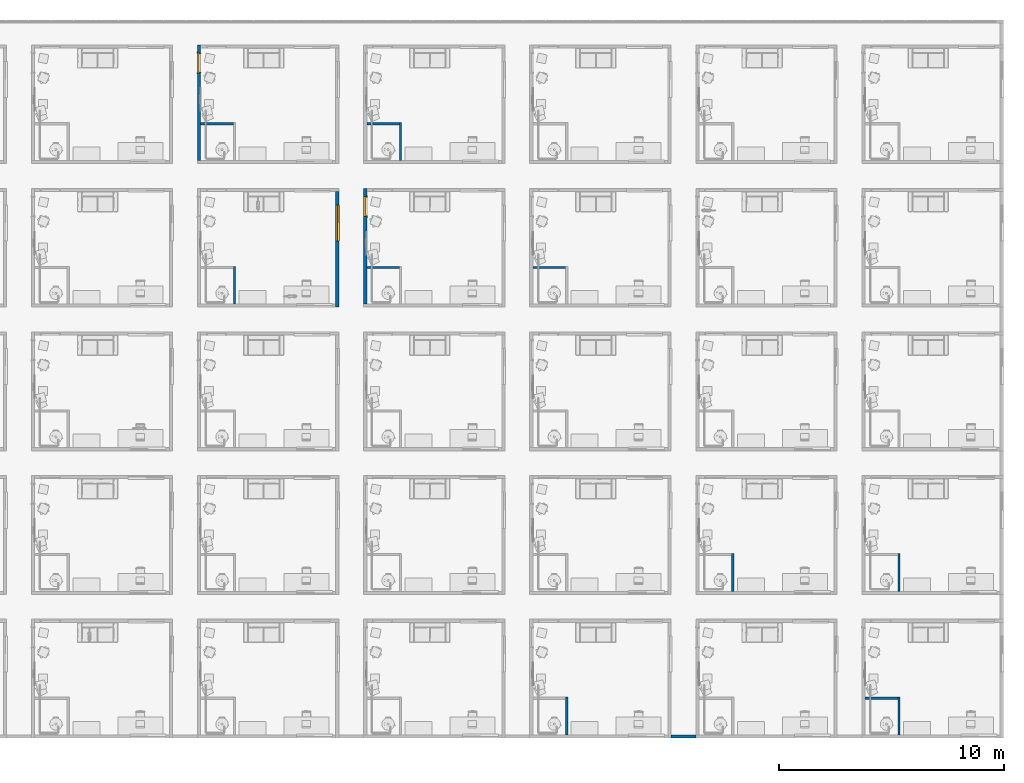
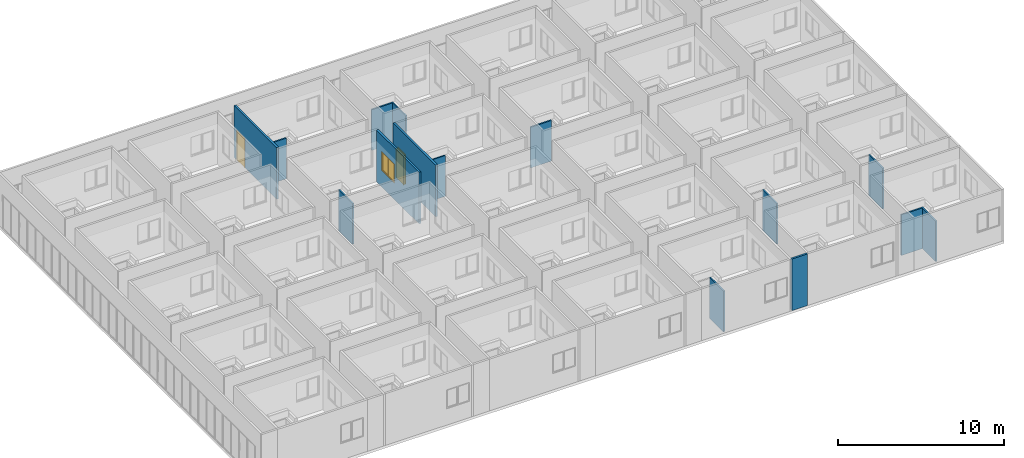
# One storey, part 9 of 71: 15 walls, 2 doors, 1 window, 3 openings.
"""IFC4 building model written with IfcOpenShell, lengths in centimetres."""

from ifc_helpers import new_model, entity, si_unit, converted_unit, derived_unit, direction, frame, origin, place, context, subcontext, project, spatial, indexed_curve, outline, extrude, polygons, source, transform, mapped, material, constituent, constituent_set, type_object, type_shapes, element, fill, save


model = new_model("IFC4")

# Units and contexts
model_context = context("Model", 3, precision=0.001, world=origin(), true_north=direction((6.123233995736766e-17, 1.0)))
body_context = subcontext(model_context, "Body", "Model", "MODEL_VIEW")
ifc_project = project(units=[si_unit("LENGTHUNIT", "METRE", prefix="CENTI"), si_unit("AREAUNIT", "SQUARE_METRE"), si_unit("VOLUMEUNIT", "CUBIC_METRE"), derived_unit("THERMALTRANSMITTANCEUNIT", [(si_unit("MASSUNIT", "GRAM", prefix="KILO"), 1), (si_unit("THERMODYNAMICTEMPERATUREUNIT", "KELVIN"), -1), (si_unit("TIMEUNIT", "SECOND"), -3)]), converted_unit("PLANEANGLEUNIT", "DEGREE", entity("IfcPlaneAngleMeasure", 0.017453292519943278), si_unit("PLANEANGLEUNIT", "RADIAN"), dimensions=[0, 0, 0, 0, 0, 0, 0]), derived_unit("MASSDENSITYUNIT", [(si_unit("MASSUNIT", "GRAM", prefix="KILO"), 1), (si_unit("LENGTHUNIT", "METRE"), -3)]), derived_unit("VAPORPERMEABILITYUNIT", [(si_unit("LENGTHUNIT", "METRE"), -1), (si_unit("TIMEUNIT", "SECOND"), 1)]), derived_unit("USERDEFINED", [(si_unit("MASSUNIT", "GRAM", prefix="KILO"), 1), (si_unit("TIMEUNIT", "SECOND"), -3), (si_unit("LENGTHUNIT", "METRE"), 3), (si_unit("ELECTRICCURRENTUNIT", "AMPERE"), -2)]), derived_unit("SPECIFICHEATCAPACITYUNIT", [(si_unit("THERMODYNAMICTEMPERATUREUNIT", "KELVIN"), -1), (si_unit("LENGTHUNIT", "METRE"), 2), (si_unit("TIMEUNIT", "SECOND"), -2)]), derived_unit("THERMALCONDUCTANCEUNIT", [(si_unit("MASSUNIT", "GRAM", prefix="KILO"), 1), (si_unit("THERMODYNAMICTEMPERATUREUNIT", "KELVIN"), -1), (si_unit("TIMEUNIT", "SECOND"), -3), (si_unit("LENGTHUNIT", "METRE"), 1)]), si_unit("PRESSUREUNIT", "PASCAL"), derived_unit("MODULUSOFELASTICITYUNIT", [(si_unit("MASSUNIT", "GRAM", prefix="KILO"), 1), (si_unit("LENGTHUNIT", "METRE"), -1), (si_unit("TIMEUNIT", "SECOND"), -2)]), derived_unit("THERMALEXPANSIONCOEFFICIENTUNIT", [(si_unit("THERMODYNAMICTEMPERATUREUNIT", "KELVIN"), -1)])], contexts=[model_context])

# Site, building, storey
site_placement = place(None, origin())
site = spatial("IfcSite", under=ifc_project, at=site_placement, Name="Default", CompositionType="ELEMENT")
building_placement = place(site_placement, origin())
building = spatial("IfcBuilding", under=site, at=building_placement, Name="IDS Escape Game Building", CompositionType="ELEMENT")
storey_placement = place(building_placement, frame((0.0, 0.0, 1200.0)))
storey = spatial("IfcBuildingStorey", under=building, at=storey_placement, Name="03_Third Floor", CompositionType="ELEMENT", Elevation=1200.0)

# Wall, opening, window
ifc_material_1 = material(Name="ARC_FME.g2_Fg2 Masonry_00_gen_BERSnl", Category="g - klei")
wall_type_1 = type_object("IfcWallType", Name="Basic Wall:ARC_22.10_WA_LB_SB14_gen_BERSnl", PredefinedType="STANDARD")
wall_1_placement = place(storey_placement, frame((2090.0, 1913.0, 0.0), z_axis=(0.0, 0.0, 1.0), x_axis=(0.0, 1.0, 0.0)))
wall_1 = element("IfcWall", 1, at=wall_1_placement, inside=storey, type_object=wall_type_1, material=ifc_material_1, Name="Basic Wall:ARC_22.10_WA_LB_SB14_gen_BERSnl", ObjectType="Basic Wall:ARC_22.10_WA_LB_SB14_gen_BERSnl", PredefinedType="NOTDEFINED", context=body_context, shape_type="Tessellation", body=[
    polygons([(0.0, -6.999999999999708, 0.0), (513.9999999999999, -6.999999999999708, 0.0), (513.9999999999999, -6.999999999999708, 380.0), (0.0, -6.999999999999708, 380.0), (453.99999999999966, -6.999999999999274, 260.00000000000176), (454.00000000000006, -6.999999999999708, 120.00000000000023), (294.00000000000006, -6.999999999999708, 120.00000000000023), (294.00000000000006, -6.999999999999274, 260.00000000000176), (454.00000000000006, 7.000000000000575, 120.00000000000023), (454.00000000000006, 7.000000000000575, 260.0), (294.00000000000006, 7.000000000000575, 260.0), (294.00000000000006, 7.000000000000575, 120.00000000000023), (0.0, 7.000000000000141, 0.0), (0.0, 7.000000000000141, 380.0), (14.000000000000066, 7.000000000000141, 380.0), (513.9999999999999, 7.000000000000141, 380.0), (513.9999999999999, 7.000000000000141, 0.0), (14.000000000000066, 7.000000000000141, 0.0)], [[[1, 2, 3, 4], [5, 6, 7, 8]], [[13, 14, 15, 16, 17, 18], [9, 10, 11, 12]], [[2, 1, 13, 18, 17]], [[4, 3, 16, 15, 14]], [[10, 9, 6, 5]], [[7, 12, 11, 8]], [[10, 5, 8, 11]], [[12, 7, 6, 9]], [[1, 4, 14, 13]], [[3, 2, 17, 16]]], closed=True),
])
opening_1_placement = place(wall_1_placement, frame((-1913.0, 2090.0, 120.0), z_axis=(0.0, 0.0, 1.0), x_axis=(0.0, -1.0, 0.0)))
opening_1 = element("IfcOpeningElement", 2, at=opening_1_placement, cuts=wall_1, Name="Basic Wall:ARC_22.10_WA_LB_SB14_gen_BERSnl", PredefinedType="OPENING", context=body_context, shape_type="Tessellation", body=[
    polygons([(2082.9999999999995, 2367.0000000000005, 2.2737367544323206e-13), (2082.9999999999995, 2367.0000000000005, -1.0), (2077.999999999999, 2367.0000000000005, -1.0), (2077.999999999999, 2367.0000000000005, 2.2737367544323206e-13), (2082.9999999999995, 2207.0000000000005, 2.2737367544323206e-13), (2077.999999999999, 2207.0000000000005, 2.2737367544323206e-13), (2077.999999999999, 2207.0000000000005, -1.0), (2082.9999999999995, 2207.0000000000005, -1.0), (2082.999999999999, 2362.0000000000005, 0.0), (2082.999999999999, 2212.0000000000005, 0.0), (2077.9999999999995, 2212.0000000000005, 2.2737367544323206e-13), (2077.9999999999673, 2212.0, 135.0), (2077.9999999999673, 2362.0000000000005, 135.0), (2077.9999999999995, 2362.0000000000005, 2.2737367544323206e-13), (2102.0368251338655, 2367.0000000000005, 2.2737367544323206e-13), (2082.999999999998, 2367.0000000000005, 2.2737367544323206e-13), (2082.9999999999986, 2367.0000000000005, 140.00000000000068), (2102.036825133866, 2367.0000000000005, 140.00000000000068), (2102.0368251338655, 2207.0000000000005, 140.0), (2082.999999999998, 2207.0000000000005, 140.0), (2082.9999999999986, 2207.0000000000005, 2.2737367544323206e-13), (2102.0368251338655, 2207.0000000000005, 2.2737367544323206e-13), (2082.9999999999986, 2362.0000000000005, 135.0), (2082.999999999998, 2212.0, 135.0)], [[[1, 2, 3, 4]], [[5, 6, 7, 8]], [[1, 9, 10, 5, 8, 2]], [[2, 8, 7, 3]], [[3, 7, 6, 11, 12, 13, 14, 4]], [[4, 14, 9, 1]], [[15, 16, 17, 18]], [[19, 20, 21, 22]], [[18, 17, 20, 19]], [[18, 19, 22, 15]], [[17, 16, 9, 23, 24, 10, 21, 20]], [[22, 21, 10, 9, 16, 15]], [[11, 10, 24, 12]], [[13, 23, 9, 14]], [[12, 24, 23, 13]], [[5, 10, 11, 6]]], closed=True),
])
ifc_material_2 = material(Name="<Unnamed>")
ifc_constituent_1 = constituent(ifc_material_2, Name="<Unnamed>", fraction=0.0)
ifc_material_3 = material(Name="ARC_FME.o1_glass_00_gen_BERSnl", Category="o - glas")
ifc_constituent_2 = constituent(ifc_material_3, Name="ARC_FME.o1_glass_00_gen_BERSnl", Category="o - glas", fraction=1.0)
ifc_constituent_set_1 = constituent_set(constituents=[ifc_constituent_1, ifc_constituent_2])
ifc_constituent_3 = constituent(ifc_material_2, Name="BE Tablet", fraction=0.0)
ifc_constituent_4 = constituent(ifc_material_2, Name="Frame/Mullion", fraction=0.0)
ifc_constituent_5 = constituent(ifc_material_3, Name="Glass", Category="o - glas", fraction=1.0)
ifc_constituent_set_2 = constituent_set(constituents=[ifc_constituent_3, ifc_constituent_4, ifc_constituent_5])
window_type = type_object("IfcWindowType", Name="ARC_31_WI_WB_Dubbel Raam-Recht-Vast en Draaiend_gen_BERSnl:Links-Draaiend / Rechts-Draaiend", PartitioningType="NOTDEFINED", PredefinedType="WINDOW", material=ifc_constituent_set_2)
shared_shape_1 = source(origin(), body_context, "Body", "Tessellation", [
    extrude(outline(indexed_curve([(-80.00000000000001, -4.999999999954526), (80.00000000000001, -4.999999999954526), (80.00000000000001, 4.999999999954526), (-80.00000000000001, 4.999999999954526), (-80.00000000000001, -4.999999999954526)], self_intersect=False)), frame((80.0, 7.036825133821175, 1.0), z_axis=(0.0, 0.0, 1.0), x_axis=(-1.0, 0.0, 0.0)), (0.0, 0.0, 1.0), 2.000000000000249),
    extrude(outline(indexed_curve([(-2.9999999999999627, -3.000000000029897), (-7.656209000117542e-14, -3.000000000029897), (-7.064016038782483e-14, 5.979964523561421e-11), (3.0000000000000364, 5.978991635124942e-11), (3.0000000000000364, 2.9999999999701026), (-2.9999999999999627, 2.9999999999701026), (-2.9999999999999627, -3.000000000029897)], self_intersect=False)), frame((80.0, 15.03682513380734, 7.0)), (0.0, 0.0, 1.0), 128.00000000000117),
    extrude(outline(indexed_curve([(-35.499999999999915, -1.2000000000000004), (35.499999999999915, -1.2000000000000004), (35.49999999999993, 1.2), (-35.499999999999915, 1.2), (-35.499999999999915, -1.2000000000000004)], self_intersect=False)), frame((41.50000000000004, 15.036825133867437, 7.0), z_axis=(0.0, 0.0, 1.0), x_axis=(-1.0, 0.0, 0.0)), (0.0, 0.0, 1.0), 128.000000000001),
    extrude(outline(indexed_curve([(-67.00000000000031, -38.500000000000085), (67.00000000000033, -38.5000000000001), (67.00000000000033, 38.50000000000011), (-67.00000000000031, 38.50000000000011), (-67.00000000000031, -38.500000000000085)], self_intersect=False), holes=[indexed_curve([(61.00000000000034, -32.50000000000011), (-61.00000000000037, -32.500000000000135), (-61.00000000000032, 32.50000000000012), (61.00000000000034, 32.50000000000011), (61.00000000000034, -32.50000000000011)], self_intersect=False)]), frame((118.5, 9.03682513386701, 71.0), z_axis=(0.0, 1.0, 0.0), x_axis=(0.0, 0.0, -1.0)), (0.0, 0.0, 1.0), 6.0),
    extrude(outline(indexed_curve([(-32.500000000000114, -1.2000000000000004), (32.500000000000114, -1.2000000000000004), (32.500000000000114, 1.2000000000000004), (-32.500000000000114, 1.2000000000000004), (-32.500000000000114, -1.2000000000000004)], self_intersect=False)), frame((118.5, 12.036825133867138, 10.0), z_axis=(0.0, 0.0, 1.0), x_axis=(-1.0, 0.0, 0.0)), (0.0, 0.0, 1.0), 122.00000000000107),
    polygons([(160.00000000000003, 18.03682513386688, 141.00000000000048), (160.00000000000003, 18.03682513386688, 1.0000000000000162), (4.0607517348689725e-14, 18.036825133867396, 1.0000000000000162), (4.0607517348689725e-14, 18.036825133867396, 141.00000000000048), (6.000000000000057, 18.03682513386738, 135.00000000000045), (6.000000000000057, 18.03682513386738, 7.000000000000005), (76.99999999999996, 18.03682513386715, 7.000000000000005), (154.00000000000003, 18.0368251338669, 7.000000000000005), (154.00000000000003, 18.0368251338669, 135.00000000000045), (76.99999999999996, 18.03682513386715, 135.00000000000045), (160.0, 12.03682513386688, 141.00000000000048), (160.0, 12.03682513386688, 1.0000000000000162), (2.7071678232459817e-14, 12.036825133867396, 1.0000000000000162), (2.7071678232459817e-14, 12.036825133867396, 141.00000000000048), (6.000000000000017, 12.036825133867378, 135.00000000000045), (6.000000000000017, 12.036825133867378, 7.000000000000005), (76.99999999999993, 12.036825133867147, 7.000000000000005), (79.99999999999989, 12.036825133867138, 7.000000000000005), (79.9999999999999, 15.036825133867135, 7.000000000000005), (154.00000000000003, 15.0368251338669, 7.000000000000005), (154.00000000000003, 15.036825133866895, 135.00000000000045), (76.99999999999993, 12.036825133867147, 135.00000000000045), (79.99999999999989, 12.036825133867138, 135.00000000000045), (79.99999999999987, 12.036825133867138, 138.00000000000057), (157.00000000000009, 12.036825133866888, 138.00000000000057), (157.00000000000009, 12.036825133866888, 3.9999999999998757), (79.99999999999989, 12.036825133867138, 3.9999999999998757), (157.0000000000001, 15.036825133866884, 3.9999999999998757), (157.0000000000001, 15.036825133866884, 138.00000000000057), (79.99999999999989, 15.036825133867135, 3.9999999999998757), (79.99999999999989, 15.036825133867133, 138.00000000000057), (79.99999999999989, 15.036825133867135, 135.00000000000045)], [[[1, 2, 3, 4], [5, 6, 7, 8, 9, 10]], [[2, 1, 11, 12]], [[3, 2, 12, 13]], [[4, 3, 13, 14]], [[6, 5, 15, 16]], [[6, 16, 17, 18, 19, 20, 8, 7]], [[9, 8, 20, 21]], [[11, 14, 13, 12], [16, 15, 22, 23, 24, 25, 26, 27, 18, 17]], [[28, 26, 25, 29]], [[30, 27, 26, 28]], [[31, 24, 23, 32]], [[30, 28, 29, 31, 32, 21, 20, 19]], [[1, 4, 14, 11]], [[15, 5, 10, 9, 21, 32, 23, 22]], [[24, 31, 29, 25]], [[27, 30, 19, 18]]], closed=True),
])
type_shapes(window_type, [shared_shape_1])
window_placement = place(opening_1_placement, frame((2102.0368251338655, 2207.0, -1.0), z_axis=(0.0, 0.0, 1.0), x_axis=(0.0, 1.0, 0.0)))
window = element("IfcWindow", 3, at=window_placement, inside=storey, type_object=window_type, material=ifc_constituent_set_1, Name="ARC_31_WI_WB_Dubbel Raam-Recht-Vast en Draaiend_gen_BERSnl:Links-Draaiend / Rechts-Draaiend", ObjectType="ARC_31_WI_WB_Dubbel Raam-Recht-Vast en Draaiend_gen_BERSnl:Links-Draaiend / Rechts-Draaiend", OverallHeight=140.00000000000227, OverallWidth=160.0000000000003, PartitioningType="NOTDEFINED", PredefinedType="WINDOW", context=body_context, shape_type="MappedRepresentation", body=[
    mapped(shared_shape_1, transform((0.0, 0.0, 0.0), scale=1.0)),
])
fill(opening_1, window)

# Wall, opening, door
wall_2_placement = place(storey_placement, frame((2214.0, 2441.0, 0.0), z_axis=(0.0, 0.0, 1.0), x_axis=(0.0, -1.0, 0.0)))
wall_2 = element("IfcWall", 4, at=wall_2_placement, inside=storey, type_object=wall_type_1, material=ifc_material_1, Name="Basic Wall:ARC_22.10_WA_LB_SB14_gen_BERSnl", ObjectType="Basic Wall:ARC_22.10_WA_LB_SB14_gen_BERSnl", PredefinedType="NOTDEFINED", context=body_context, shape_type="Tessellation", body=[
    polygons([(513.9999999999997, -6.999999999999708, 380.0), (0.0, -6.999999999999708, 380.0), (0.0, -6.999999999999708, 0.0), (35.999999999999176, -6.999999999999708, 0.0), (35.999999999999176, -6.999999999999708, 215.00000000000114), (125.99999999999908, -6.999999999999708, 215.00000000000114), (125.99999999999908, -6.999999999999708, 0.0), (513.9999999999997, -6.999999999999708, 0.0), (0.0, 7.000000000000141, 380.0), (13.999999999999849, 7.000000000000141, 380.0), (513.9999999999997, 7.000000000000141, 380.0), (513.9999999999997, 7.000000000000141, 0.0), (355.9999999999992, 7.000000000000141, 0.0), (345.9999999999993, 7.000000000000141, 0.0), (125.99999999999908, 7.000000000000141, 0.0), (125.99999999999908, 7.000000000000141, 215.00000000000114), (35.999999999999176, 7.000000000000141, 215.00000000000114), (35.999999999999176, 7.000000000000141, 0.0), (13.999999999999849, 7.000000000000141, 0.0), (0.0, 7.000000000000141, 0.0)], [[[1, 2, 3, 4, 5, 6, 7, 8]], [[9, 10, 11, 12, 13, 14, 15, 16, 17, 18, 19, 20]], [[3, 20, 19, 18, 4]], [[2, 1, 11, 10, 9]], [[17, 5, 4, 18]], [[6, 16, 15, 7]], [[5, 17, 16, 6]], [[3, 2, 9, 20]], [[1, 8, 12, 11]], [[12, 8, 7, 15, 14, 13]]], closed=True),
])
opening_2_placement = place(wall_2_placement, frame((2441.0, -2214.0, 0.0), z_axis=(0.0, 0.0, 1.0), x_axis=(0.0, 1.0, 0.0)))
opening_2 = element("IfcOpeningElement", 5, at=opening_2_placement, cuts=wall_2, Name="Basic Wall:ARC_22.10_WA_LB_SB14_gen_BERSnl", PredefinedType="OPENING", context=body_context, shape_type="SweptSolid", body=[
    extrude(outline(indexed_curve([(-137.49999999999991, -45.00000000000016), (137.49999999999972, -45.00000000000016), (137.49999999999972, 44.99999999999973), (-137.49999999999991, 44.99999999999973), (-137.49999999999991, -45.00000000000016)], self_intersect=False)), frame((2124.0, 2360.0, 77.50000000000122), z_axis=(1.0, 0.0, 0.0), x_axis=(0.0, 0.0, 1.0)), (0.0, 0.0, 1.0), 166.00000000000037),
])
ifc_material_4 = material(Name="ARC_FME.i3_wood_00_gen_BERSnl", Category="i - hout")
door_type = type_object("IfcDoorType", Name="ARC_32.30_DO_WB_binnendeur enkel draaiend met void_gen_BERSnl:Fire Exit_830x2115_EI60", OperationType="SINGLE_SWING_RIGHT", PredefinedType="DOOR", material=ifc_material_4)
shared_shape_2 = source(origin(), body_context, "Body", "Tessellation", [
    extrude(outline(indexed_curve([(-41.49999999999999, -3.749999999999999), (41.49999999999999, -3.749999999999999), (41.49999999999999, 3.75), (-41.49999999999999, 3.75), (-41.49999999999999, -3.749999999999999)], self_intersect=False)), frame((45.0, 79.24999999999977, 60.0), z_axis=(0.0, 0.0, 1.0), x_axis=(-1.0, 0.0, 0.0)), (0.0, 0.0, 1.0), 211.50000000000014),
    polygons([(88.99999999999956, 82.99999999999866, 59.999999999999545), (88.9999999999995, 67.99999999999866, 59.999999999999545), (94.99999999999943, 67.99999999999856, 59.999999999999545), (94.99999999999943, 66.49999999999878, 59.999999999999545), (84.99999999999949, 66.4999999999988, 59.999999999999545), (84.99999999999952, 75.49999999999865, 59.999999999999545), (86.49999999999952, 75.49999999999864, 59.999999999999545), (86.49999999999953, 84.49999999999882, 59.999999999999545), (94.99999999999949, 84.49999999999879, 59.999999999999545), (94.99999999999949, 82.99999999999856, 59.999999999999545), (88.99999999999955, 82.99999999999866, 274.0000000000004), (88.9999999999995, 67.99999999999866, 274.0000000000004), (0.9999999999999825, 67.99999999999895, 274.0000000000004), (0.9999999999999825, 67.99999999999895, 59.99999999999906), (-4.999999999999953, 67.99999999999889, 59.99999999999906), (-4.999999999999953, 67.99999999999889, 280.00000000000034), (94.99999999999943, 67.99999999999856, 280.00000000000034), (94.99999999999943, 66.49999999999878, 280.00000000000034), (-4.999999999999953, 66.4999999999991, 280.00000000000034), (-4.999999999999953, 66.4999999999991, 59.99999999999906), (4.999999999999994, 66.49999999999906, 59.99999999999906), (4.999999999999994, 66.49999999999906, 270.00000000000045), (84.99999999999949, 66.4999999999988, 270.00000000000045), (84.99999999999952, 75.49999999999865, 270.00000000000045), (5.000000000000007, 75.4999999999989, 270.00000000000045), (5.0, 75.4999999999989, 59.99999999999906), (3.5000000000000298, 75.4999999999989, 59.99999999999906), (3.500000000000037, 75.4999999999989, 271.50000000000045), (86.4999999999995, 75.49999999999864, 271.50000000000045), (86.49999999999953, 84.49999999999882, 271.50000000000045), (3.5000000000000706, 84.49999999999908, 271.50000000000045), (3.500000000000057, 84.49999999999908, 59.99999999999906), (-4.999999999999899, 84.4999999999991, 59.99999999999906), (-4.999999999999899, 84.4999999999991, 280.00000000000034), (94.99999999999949, 84.49999999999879, 280.00000000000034), (94.99999999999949, 82.99999999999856, 280.00000000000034), (-4.999999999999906, 82.99999999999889, 280.00000000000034), (-4.999999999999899, 82.99999999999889, 59.99999999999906), (1.0000000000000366, 82.99999999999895, 59.99999999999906), (1.0000000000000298, 82.99999999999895, 274.0000000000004)], [[[1, 2, 3, 4, 5, 6, 7, 8, 9, 10]], [[2, 1, 11, 12]], [[3, 2, 12, 13, 14, 15, 16, 17]], [[4, 3, 17, 18]], [[5, 4, 18, 19, 20, 21, 22, 23]], [[6, 5, 23, 24]], [[7, 6, 24, 25, 26, 27, 28, 29]], [[8, 7, 29, 30]], [[9, 8, 30, 31, 32, 33, 34, 35]], [[10, 9, 35, 36]], [[1, 10, 36, 37, 38, 39, 40, 11]], [[37, 34, 33, 38]], [[39, 38, 33, 32, 27, 26, 21, 20, 15, 14]], [[13, 40, 39, 14]], [[31, 28, 27, 32]], [[25, 22, 21, 26]], [[19, 16, 15, 20]], [[36, 35, 34, 37]], [[30, 29, 28, 31]], [[24, 23, 22, 25]], [[18, 17, 16, 19]], [[12, 11, 40, 13]]], closed=True),
])
type_shapes(door_type, [shared_shape_2])
door_1_placement = place(opening_2_placement, frame((2290.0, 2315.0, -60.0), z_axis=(0.0, 0.0, 1.0), x_axis=(0.0, 1.0, 0.0)))
door_1 = element("IfcDoor", 6, at=door_1_placement, inside=storey, type_object=door_type, material=ifc_material_4, Name="ARC_32.30_DO_WB_binnendeur enkel draaiend met void_gen_BERSnl:Fire Exit_830x2115_EI60", ObjectType="ARC_32.30_DO_WB_binnendeur enkel draaiend met void_gen_BERSnl:Fire Exit_830x2115_EI60", OverallHeight=274.99999999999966, OverallWidth=89.9999999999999, PredefinedType="DOOR", context=body_context, shape_type="MappedRepresentation", body=[
    mapped(shared_shape_2, transform((0.0, 0.0, 0.0), scale=1.0)),
])
fill(opening_2, door_1)

wall_3_placement = place(storey_placement, frame((1476.0, 3079.0, 0.0), z_axis=(0.0, 0.0, 1.0), x_axis=(0.0, -1.0, 0.0)))
wall_3 = element("IfcWall", 7, at=wall_3_placement, inside=storey, type_object=wall_type_1, material=ifc_material_1, Name="Basic Wall:ARC_22.10_WA_LB_SB14_gen_BERSnl", ObjectType="Basic Wall:ARC_22.10_WA_LB_SB14_gen_BERSnl", PredefinedType="NOTDEFINED", context=body_context, shape_type="Tessellation", body=[
    polygons([(513.9999999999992, -7.000000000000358, 380.0), (0.0, -7.000000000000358, 380.0), (0.0, -7.000000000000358, 0.0), (35.999999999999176, -7.000000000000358, 0.0), (35.999999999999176, -7.000000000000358, 215.00000000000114), (125.99999999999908, -7.000000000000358, 215.00000000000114), (125.99999999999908, -7.000000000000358, 0.0), (513.9999999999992, -7.000000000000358, 0.0), (0.0, 6.9999999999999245, 380.0), (13.999999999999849, 6.9999999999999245, 380.0), (513.9999999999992, 6.9999999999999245, 380.0), (513.9999999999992, 6.9999999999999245, 0.0), (355.9999999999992, 6.9999999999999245, 0.0), (345.9999999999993, 6.9999999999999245, 0.0), (125.99999999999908, 6.9999999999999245, 0.0), (125.99999999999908, 6.9999999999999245, 215.00000000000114), (35.999999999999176, 6.9999999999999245, 215.00000000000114), (35.999999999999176, 6.9999999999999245, 0.0), (13.999999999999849, 6.9999999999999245, 0.0), (0.0, 6.9999999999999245, 0.0)], [[[1, 2, 3, 4, 5, 6, 7, 8]], [[9, 10, 11, 12, 13, 14, 15, 16, 17, 18, 19, 20]], [[3, 20, 19, 18, 4]], [[2, 1, 11, 10, 9]], [[17, 5, 4, 18]], [[6, 16, 15, 7]], [[5, 17, 16, 6]], [[3, 2, 9, 20]], [[1, 8, 12, 11]], [[12, 8, 7, 15, 14, 13]]], closed=True),
])
opening_3_placement = place(wall_3_placement, frame((3079.0, -1476.0, 0.0), z_axis=(0.0, 0.0, 1.0), x_axis=(0.0, 1.0, 0.0)))
opening_3 = element("IfcOpeningElement", 8, at=opening_3_placement, cuts=wall_3, Name="Basic Wall:ARC_22.10_WA_LB_SB14_gen_BERSnl", PredefinedType="OPENING", context=body_context, shape_type="SweptSolid", body=[
    extrude(outline(indexed_curve([(-137.49999999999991, -44.99999999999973), (137.49999999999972, -44.99999999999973), (137.49999999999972, 45.00000000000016), (-137.49999999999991, 45.00000000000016), (-137.49999999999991, -44.99999999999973)], self_intersect=False)), frame((1386.0, 2998.0, 77.50000000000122), z_axis=(1.0, 0.0, 0.0), x_axis=(0.0, 0.0, 1.0)), (0.0, 0.0, 1.0), 165.99999999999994),
])
door_2_placement = place(opening_3_placement, frame((1552.0, 2953.0, -60.0), z_axis=(0.0, 0.0, 1.0), x_axis=(0.0, 1.0, 0.0)))
door_2 = element("IfcDoor", 9, at=door_2_placement, inside=storey, type_object=door_type, material=ifc_material_4, Name="ARC_32.30_DO_WB_binnendeur enkel draaiend met void_gen_BERSnl:Fire Exit_830x2115_EI60", ObjectType="ARC_32.30_DO_WB_binnendeur enkel draaiend met void_gen_BERSnl:Fire Exit_830x2115_EI60", OverallHeight=274.99999999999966, OverallWidth=89.9999999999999, PredefinedType="DOOR", context=body_context, shape_type="MappedRepresentation", body=[
    mapped(shared_shape_2, transform((0.0, 0.0, 0.0), scale=1.0)),
])
fill(opening_3, door_2)

# Walls
wall_4_placement = place(storey_placement, frame((3683.0, 6.0, 0.0), z_axis=(0.0, 0.0, 1.0), x_axis=(-1.0, 0.0, 0.0)))
element("IfcWall", 10, at=wall_4_placement, inside=storey, type_object=wall_type_1, material=ifc_material_1, Name="Basic Wall:ARC_22.10_WA_LB_SB14_gen_BERSnl", ObjectType="Basic Wall:ARC_22.10_WA_LB_SB14_gen_BERSnl", PredefinedType="NOTDEFINED", context=body_context, shape_type="SweptSolid", body=[
    extrude(outline(indexed_curve([(110.00000000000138, 7.000000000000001), (-2.2611003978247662e-14, 7.0), (2.2611003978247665e-14, -7.000000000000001), (110.00000000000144, -7.000000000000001), (110.00000000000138, 7.000000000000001)], self_intersect=False)), origin(), (0.0, 0.0, 1.0), 380.0000000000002),
])
ifc_material_5 = material(Name="ARC_FME.r2_Plaster_white_gen_BERSnl", Category="r - klei, gips, magnesium en kunststof bindmiddelen")
wall_type_2 = type_object("IfcWallType", Name="Basic Wall:ARC_22.10_WA_LB_GPS10_gen_BERSnl", PredefinedType="STANDARD")
wall_5_placement = place(storey_placement, frame((3109.0, 13.0, 0.0), z_axis=(0.0, 0.0, 1.0), x_axis=(0.0, 1.0, 0.0)))
element("IfcWall", 11, at=wall_5_placement, inside=storey, type_object=wall_type_2, material=ifc_material_5, Name="Basic Wall:ARC_22.10_WA_LB_GPS10_gen_BERSnl", ObjectType="Basic Wall:ARC_22.10_WA_LB_GPS10_gen_BERSnl", PredefinedType="NOTDEFINED", context=body_context, shape_type="SweptSolid", body=[
    extrude(outline(indexed_curve([(168.00000000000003, 4.9999999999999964), (-1.1881077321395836e-15, 5.0000000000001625), (-5.038721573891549e-16, -5.0000000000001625), (168.00000000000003, -5.000000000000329), (168.00000000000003, 4.9999999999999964)], self_intersect=False)), origin(), (0.0, 0.0, 1.0), 300.0000000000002),
])
wall_6_placement = place(storey_placement, frame((4585.0, 13.0, 0.0), z_axis=(0.0, 0.0, 1.0), x_axis=(0.0, 1.0, 0.0)))
element("IfcWall", 12, at=wall_6_placement, inside=storey, type_object=wall_type_2, material=ifc_material_5, Name="Basic Wall:ARC_22.10_WA_LB_GPS10_gen_BERSnl", ObjectType="Basic Wall:ARC_22.10_WA_LB_GPS10_gen_BERSnl", PredefinedType="NOTDEFINED", context=body_context, shape_type="SweptSolid", body=[
    extrude(outline(indexed_curve([(168.00000000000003, 4.9999999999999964), (-1.1881077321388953e-15, 4.999999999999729), (-5.038721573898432e-16, -4.999999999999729), (168.00000000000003, -4.999999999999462), (168.00000000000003, 4.9999999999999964)], self_intersect=False)), origin(), (0.0, 0.0, 1.0), 300.0000000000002),
])
wall_7_placement = place(storey_placement, frame((4580.0, 176.0, 0.0), z_axis=(0.0, 0.0, 1.0), x_axis=(-1.0, 0.0, 0.0)))
element("IfcWall", 13, at=wall_7_placement, inside=storey, type_object=wall_type_2, material=ifc_material_5, Name="Basic Wall:ARC_22.10_WA_LB_GPS10_gen_BERSnl", ObjectType="Basic Wall:ARC_22.10_WA_LB_GPS10_gen_BERSnl", PredefinedType="NOTDEFINED", context=body_context, shape_type="SweptSolid", body=[
    extrude(outline(indexed_curve([(144.99999999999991, 5.000000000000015), (-1.6380951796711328e-14, 5.0), (1.6380951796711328e-14, -5.0), (144.99999999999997, -4.999999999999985), (144.99999999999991, 5.000000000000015)], self_intersect=False)), origin(), (0.0, 0.0, 1.0), 300.0000000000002),
])
wall_8_placement = place(storey_placement, frame((3847.0, 651.0, 0.0), z_axis=(0.0, 0.0, 1.0), x_axis=(0.0, 1.0, 0.0)))
element("IfcWall", 14, at=wall_8_placement, inside=storey, type_object=wall_type_2, material=ifc_material_5, Name="Basic Wall:ARC_22.10_WA_LB_GPS10_gen_BERSnl", ObjectType="Basic Wall:ARC_22.10_WA_LB_GPS10_gen_BERSnl", PredefinedType="NOTDEFINED", context=body_context, shape_type="SweptSolid", body=[
    extrude(outline(indexed_curve([(168.00000000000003, 4.9999999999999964), (-7.956027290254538e-15, 5.0000000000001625), (7.956027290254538e-15, -5.0000000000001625), (168.00000000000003, -5.000000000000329), (168.00000000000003, 4.9999999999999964)], self_intersect=False)), origin(), (0.0, 0.0, 1.0), 300.0000000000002),
])
wall_9_placement = place(storey_placement, frame((4585.0, 651.0, 0.0), z_axis=(0.0, 0.0, 1.0), x_axis=(0.0, 1.0, 0.0)))
element("IfcWall", 15, at=wall_9_placement, inside=storey, type_object=wall_type_2, material=ifc_material_5, Name="Basic Wall:ARC_22.10_WA_LB_GPS10_gen_BERSnl", ObjectType="Basic Wall:ARC_22.10_WA_LB_GPS10_gen_BERSnl", PredefinedType="NOTDEFINED", context=body_context, shape_type="SweptSolid", body=[
    extrude(outline(indexed_curve([(168.00000000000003, 4.9999999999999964), (-7.95602729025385e-15, 4.999999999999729), (7.95602729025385e-15, -4.999999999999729), (168.00000000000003, -4.999999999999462), (168.00000000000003, 4.9999999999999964)], self_intersect=False)), origin(), (0.0, 0.0, 1.0), 300.0000000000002),
])
wall_10_placement = place(storey_placement, frame((1633.0, 1927.0, 0.0), z_axis=(0.0, 0.0, 1.0), x_axis=(0.0, 1.0, 0.0)))
element("IfcWall", 16, at=wall_10_placement, inside=storey, type_object=wall_type_2, material=ifc_material_5, Name="Basic Wall:ARC_22.10_WA_LB_GPS10_gen_BERSnl", ObjectType="Basic Wall:ARC_22.10_WA_LB_GPS10_gen_BERSnl", PredefinedType="NOTDEFINED", context=body_context, shape_type="SweptSolid", body=[
    extrude(outline(indexed_curve([(167.99999999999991, 4.9999999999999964), (-7.956027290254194e-15, 4.999999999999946), (7.956027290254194e-15, -4.999999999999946), (167.99999999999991, -4.999999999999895), (167.99999999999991, 4.9999999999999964)], self_intersect=False)), origin(), (0.0, 0.0, 1.0), 300.0000000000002),
])
for number, where, z_axis, x_axis in (
    (17, (2366.0, 2090.0, 0.0), (0.0, 0.0, 1.0), (-1.0, 0.0, 0.0)),
    (18, (3104.0, 2090.0, 0.0), (0.0, 0.0, 1.0), (-1.0, 0.0, 0.0)),
):
    element("IfcWall", number, at=place(storey_placement, frame(where, z_axis=z_axis, x_axis=x_axis)), inside=storey, type_object=wall_type_2, material=ifc_material_5, Name="Basic Wall:ARC_22.10_WA_LB_GPS10_gen_BERSnl", ObjectType="Basic Wall:ARC_22.10_WA_LB_GPS10_gen_BERSnl", PredefinedType="NOTDEFINED", context=body_context, shape_type="SweptSolid", body=[
        extrude(outline(indexed_curve([(144.99999999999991, 5.000000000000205), (-1.6380951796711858e-14, 5.0000000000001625), (1.6380951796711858e-14, -5.0000000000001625), (144.99999999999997, -5.00000000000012), (144.99999999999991, 5.000000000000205)], self_intersect=False)), origin(), (0.0, 0.0, 1.0), 300.0000000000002),
    ])
wall_11_placement = place(storey_placement, frame((1628.0, 2728.0, 0.0), z_axis=(0.0, 0.0, 1.0), x_axis=(-1.0, 0.0, 0.0)))
element("IfcWall", 19, at=wall_11_placement, inside=storey, type_object=wall_type_2, material=ifc_material_5, Name="Basic Wall:ARC_22.10_WA_LB_GPS10_gen_BERSnl", ObjectType="Basic Wall:ARC_22.10_WA_LB_GPS10_gen_BERSnl", PredefinedType="NOTDEFINED", context=body_context, shape_type="SweptSolid", body=[
    extrude(outline(indexed_curve([(145.00000000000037, 5.000000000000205), (-1.6380951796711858e-14, 5.0000000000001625), (1.6380951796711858e-14, -5.0000000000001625), (145.00000000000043, -5.00000000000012), (145.00000000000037, 5.000000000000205)], self_intersect=False)), origin(), (0.0, 0.0, 1.0), 300.0000000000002),
])
wall_12_placement = place(storey_placement, frame((2371.0, 2565.0, 0.0), z_axis=(0.0, 0.0, 1.0), x_axis=(0.0, 1.0, 0.0)))
element("IfcWall", 20, at=wall_12_placement, inside=storey, type_object=wall_type_2, material=ifc_material_5, Name="Basic Wall:ARC_22.10_WA_LB_GPS10_gen_BERSnl", ObjectType="Basic Wall:ARC_22.10_WA_LB_GPS10_gen_BERSnl", PredefinedType="NOTDEFINED", context=body_context, shape_type="SweptSolid", body=[
    extrude(outline(indexed_curve([(167.9999999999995, 4.9999999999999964), (-7.956027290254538e-15, 5.0000000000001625), (7.956027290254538e-15, -5.0000000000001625), (167.9999999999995, -5.000000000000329), (167.9999999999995, 4.9999999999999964)], self_intersect=False)), origin(), (0.0, 0.0, 1.0), 300.0000000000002),
])
wall_13_placement = place(storey_placement, frame((2366.0, 2728.0, 0.0), z_axis=(0.0, 0.0, 1.0), x_axis=(-1.0, 0.0, 0.0)))
element("IfcWall", 21, at=wall_13_placement, inside=storey, type_object=wall_type_2, material=ifc_material_5, Name="Basic Wall:ARC_22.10_WA_LB_GPS10_gen_BERSnl", ObjectType="Basic Wall:ARC_22.10_WA_LB_GPS10_gen_BERSnl", PredefinedType="NOTDEFINED", context=body_context, shape_type="SweptSolid", body=[
    extrude(outline(indexed_curve([(144.99999999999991, 5.000000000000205), (-1.6380951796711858e-14, 5.0000000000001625), (1.6380951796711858e-14, -5.0000000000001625), (144.99999999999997, -5.00000000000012), (144.99999999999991, 5.000000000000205)], self_intersect=False)), origin(), (0.0, 0.0, 1.0), 300.0000000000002),
])

save(model, "model.ifc")
